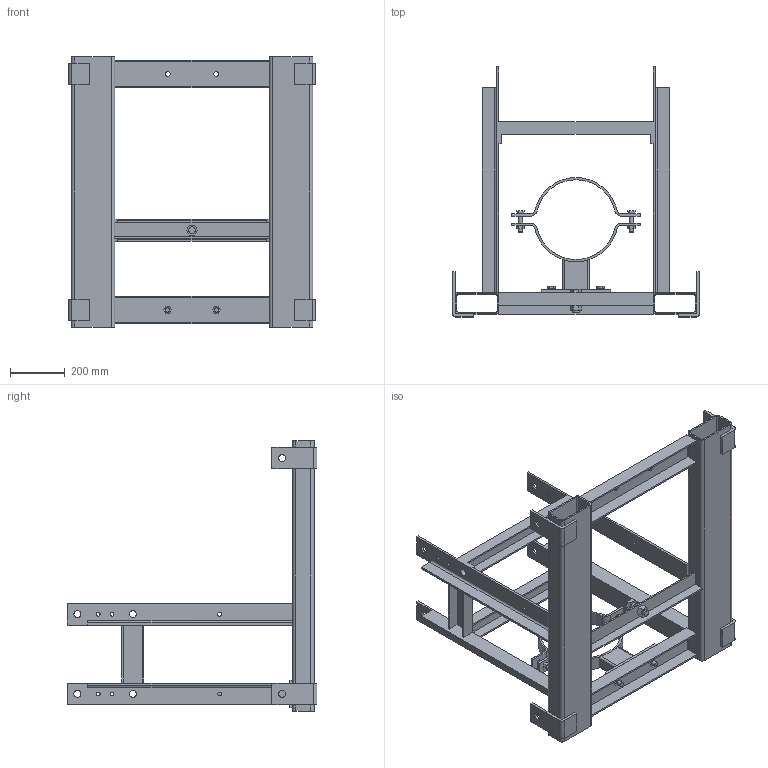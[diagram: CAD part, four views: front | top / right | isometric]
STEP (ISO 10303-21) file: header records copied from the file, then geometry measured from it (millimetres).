
FILE_DESCRIPTION(/* description */ ('VIC VALVE DIVERTER OPTIONAL SUPPORT FRAME'),/* implementation_level */ '2;1');
FILE_NAME(/* name */ 'C:\Files for Export\Optional Support frame\STEP\Victaulic_IPS_Valve Diverter_Optional Support Frame\Victaulic_IPS_Valve Diverter_Optional Support Frame_6 (150).stp',/* time_stamp */ '2024-11-26T12:31:27+01:00',/* author */ ('kkamble'),/* organization */ ('Victaulic'),/* preprocessor_version */ 'ST-DEVELOPER v18.1',/* originating_system */ 'Autodesk Inventor 2020',/* authorisation */ '');
FILE_SCHEMA (('AUTOMOTIVE_DESIGN { 1 0 10303 214 3 1 1 }'));
Length unit declared in the file: inch
Products named in the file (1): Frame-06.0
Bounding box: 905 x 915.42 x 991.11 mm (x, y, z)
Volume: 14083197.8 mm3; surface area: 3997317.8 mm2
Topology: 1 solids, 3 shells, 371 faces, 1072 edges, 700 vertices
Faces by surface type: plane 283, cylinder 86, cone 2
Full cylindrical faces by diameter (mm): 13.97 x12, 16.002 x8, 18.034 x4, 24.13 x2, 25.4 x12, 29.997 x4
Entity records: 12722 total; most frequent: CARTESIAN_POINT 2180, ORIENTED_EDGE 2144, DIRECTION 2034, EDGE_CURVE 1072, LINE 846, VECTOR 846, VERTEX_POINT 700, AXIS2_PLACEMENT_3D 594
